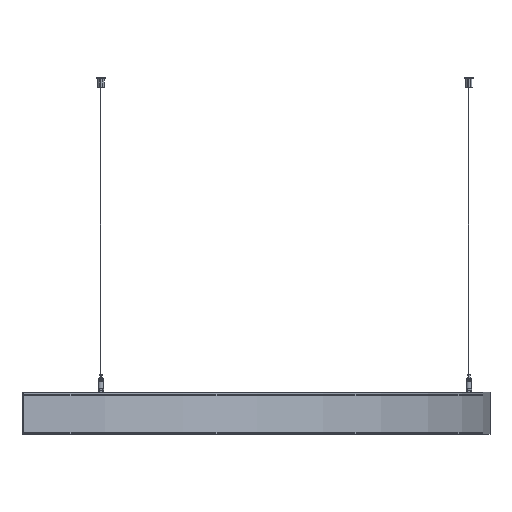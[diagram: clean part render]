
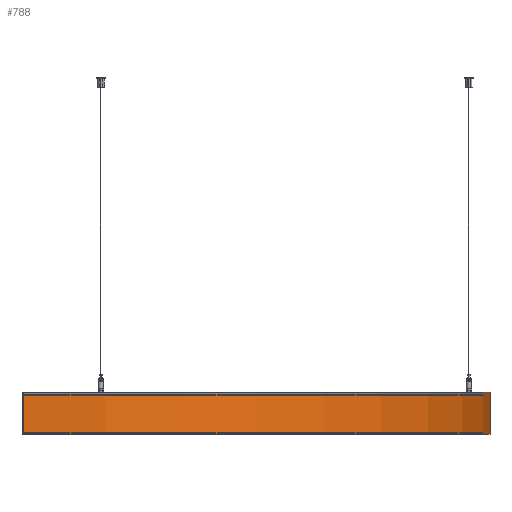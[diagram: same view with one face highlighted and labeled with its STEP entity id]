
A CAD part, front view. The second image highlights one B-rep face of the part: STEP entity #788.
In plain terms, the highlighted cylindrical face has radius 775 mm (diameter 1550 mm), a partial arc.
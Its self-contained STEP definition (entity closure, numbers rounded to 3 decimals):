
#788=ADVANCED_FACE('',(#899),#901,.T.);
#899=FACE_BOUND('',#900,.T.);
#900=EDGE_LOOP('',(#1493,#1494,#1495,#1496));
#901=CYLINDRICAL_SURFACE('',#902,775.);
#902=AXIS2_PLACEMENT_3D('',#903,#904,#905);
#903=CARTESIAN_POINT('',(0.,0.,0.));
#904=DIRECTION('',(0.,0.,1.));
#905=DIRECTION('',(0.,-1.,0.));
#1493=ORIENTED_EDGE('',*,*,#1759,.T.);
#1494=ORIENTED_EDGE('',*,*,#1767,.T.);
#1495=ORIENTED_EDGE('',*,*,#1768,.F.);
#1496=ORIENTED_EDGE('',*,*,#1769,.F.);
#1759=EDGE_CURVE('',#1901,#1899,#1902,.T.);
#1767=EDGE_CURVE('',#1899,#1913,#1915,.T.);
#1768=EDGE_CURVE('',#1916,#1913,#1917,.T.);
#1769=EDGE_CURVE('',#1901,#1916,#1918,.T.);
#1899=VERTEX_POINT('',#2144);
#1901=VERTEX_POINT('',#2148);
#1902=CIRCLE('',#2149,775.);
#1913=VERTEX_POINT('',#2176);
#1915=LINE('',#2180,#2181);
#1916=VERTEX_POINT('',#2183);
#1917=CIRCLE('',#2184,775.);
#1918=LINE('',#2188,#2189);
#2144=CARTESIAN_POINT('',(0.,775.,0.));
#2148=CARTESIAN_POINT('',(0.,-775.,0.));
#2149=AXIS2_PLACEMENT_3D('',#2150,#2151,#2152);
#2150=CARTESIAN_POINT('',(0.,0.,0.));
#2151=DIRECTION('',(0.,0.,1.));
#2152=DIRECTION('',(0.,-1.,0.));
#2176=CARTESIAN_POINT('',(0.,775.,70.));
#2180=CARTESIAN_POINT('',(0.,775.,0.));
#2181=VECTOR('',#2182,1.);
#2182=DIRECTION('',(0.,0.,1.));
#2183=CARTESIAN_POINT('',(0.,-775.,70.));
#2184=AXIS2_PLACEMENT_3D('',#2185,#2186,#2187);
#2185=CARTESIAN_POINT('',(0.,0.,70.));
#2186=DIRECTION('',(0.,0.,1.));
#2187=DIRECTION('',(0.,-1.,0.));
#2188=CARTESIAN_POINT('',(0.,-775.,0.));
#2189=VECTOR('',#2190,1.);
#2190=DIRECTION('',(0.,0.,1.));
